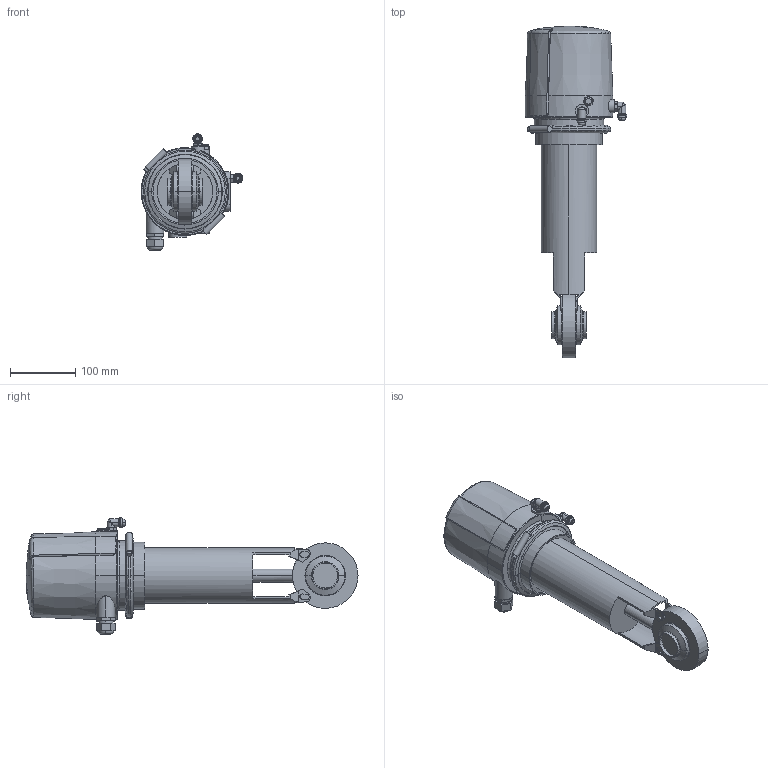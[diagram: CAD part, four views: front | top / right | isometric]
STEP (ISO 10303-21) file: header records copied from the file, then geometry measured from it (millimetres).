
FILE_DESCRIPTION(('Creo Elements/Direct Modeling STEP Export'),'2;1');
FILE_NAME('SV1-40-CU4-12S.stp','2013-02-21T13:07:09',(''),(''),'Creo Elements/Direct Modeling STEP processor for AP214 (Solid Model)','Creo Elements/Direct Modeling 17.0D 15-Jul-2011 (C) Parametric Technology GmbH','');
FILE_SCHEMA(('AUTOMOTIVE_DESIGN { 1 0 10303 214 1 1 1 1 }'));
Length unit declared in the file: millimetre
Products named in the file (3): CU41-mit-T-Adapter; SV1-40-FZ-12S; SV1-40-CU4-12S.stp
Assembly tree (2 placements, depth 2):
  SV1-40-CU4-12S.stp
    SV1-40-FZ-12S
    CU41-mit-T-Adapter
Bounding box: 155.4 x 507.05 x 177.6 mm (x, y, z)
Volume: 3311904.5 mm3; surface area: 244147.5 mm2
Topology: 2 solids, 8 shells, 451 faces, 1141 edges, 719 vertices
Faces by surface type: plane 209, cylinder 139, torus 47, cone 40, bspline 10, sphere 6
Entity records: 21452 total; most frequent: CARTESIAN_POINT 10373, ORIENTED_EDGE 2294, DIRECTION 2003, EDGE_CURVE 1139, AXIS2_PLACEMENT_3D 757, VERTEX_POINT 719, EDGE_LOOP 500, VECTOR 489
